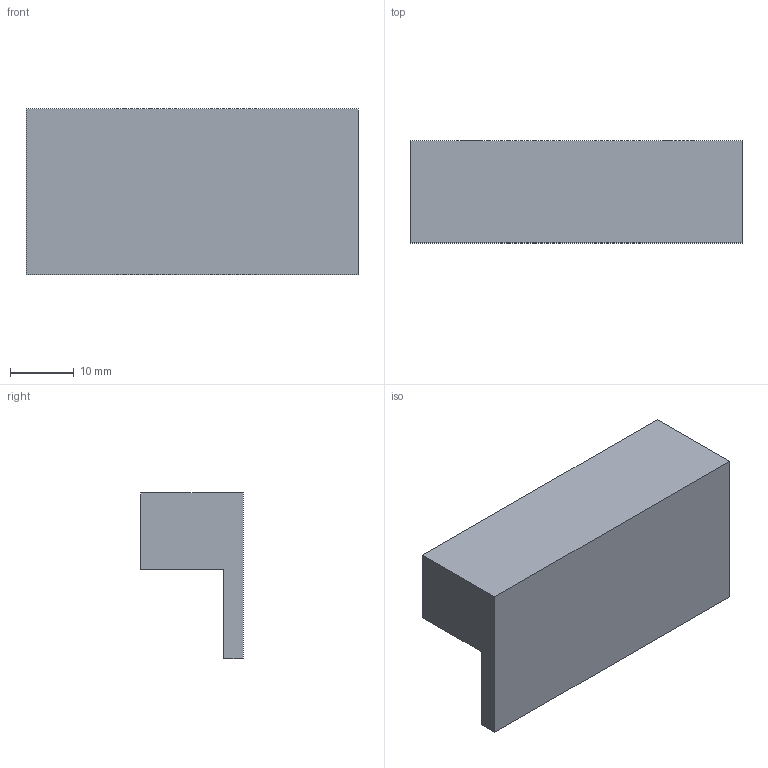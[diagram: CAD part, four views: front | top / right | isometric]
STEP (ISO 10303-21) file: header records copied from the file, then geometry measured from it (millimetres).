
FILE_DESCRIPTION( ( 'STEP AP214' ), '1' );
FILE_NAME( 'D:/Shahbaz D&D/Task/Check and correct handles with 3 drill sockets/Trani/9995437.stp', '2023-02-20T11:22:11', ( '' ), ( '' ), ' ', 'PARTsolutions', ' ' );
FILE_SCHEMA( ( 'AUTOMOTIVE_DESIGN { 1 0 10303 214 1 1 1 1 }' ) );
Length unit declared in the file: millimetre
Products named in the file (1): _9995437
Bounding box: 52 x 16 x 26 mm (x, y, z)
Volume: 11853.8 mm3; surface area: 5087.3 mm2
Topology: 1 solids, 1 shells, 12 faces, 24 edges, 16 vertices
Faces by surface type: plane 10, cylinder 2
Full cylindrical faces by diameter (mm): 5 x2
Entity records: 414 total; most frequent: DIRECTION 52, CARTESIAN_POINT 51, ORIENTED_EDGE 44, EDGE_CURVE 22, LINE 18, VECTOR 18, AXIS2_PLACEMENT_3D 17, EDGE_LOOP 16
